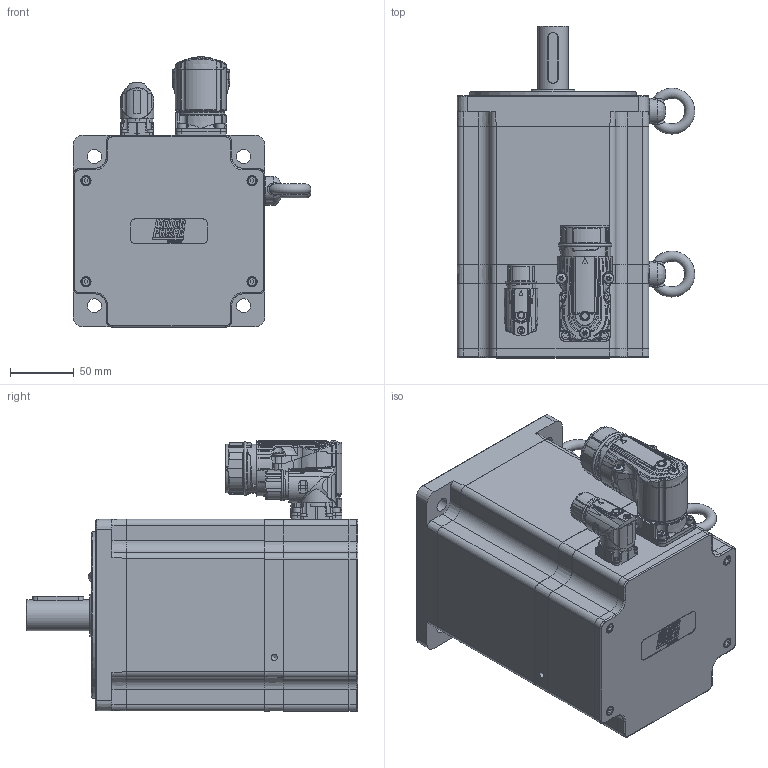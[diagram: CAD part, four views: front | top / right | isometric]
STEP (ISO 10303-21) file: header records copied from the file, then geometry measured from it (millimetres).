
FILE_DESCRIPTION(/* description */ ('Unknown'),/* implementation_level */ '2;1');
FILE_NAME(/* name */ 'TC4-150.6A.xx.x.3.A1.0.x.G3.00.00 Q0B754',/* time_stamp */ '2026-03-06T14:28:06+01:00',/* author */ ('Unknown'),/* organization */ ('Unknown'),/* preprocessor_version */ 'ST-DEVELOPER v19.4',/* originating_system */ 'Solid Edge',/* authorisation */ 'Unknown');
FILE_SCHEMA (('AUTOMOTIVE_DESIGN {1 0 10303 214 3 1 1}'));
Products named in the file (16): Q0B754 6A M1 VUOTO; 003155002229; 005113000600; 003003200239; 005321000040; 005911000252; 003103040237; 007117000452; 005911000223; Coperchio campana TC4-150; 007117000454; Dispersore TC4 150 6A single cable; 005119002043; 005911000205; 005911000185; 003251040619
Assembly tree (28 placements, depth 2):
  Q0B754 6A M1 VUOTO
    003155002229
    005113000600
    003003200239
    005321000040  x2
    005911000252  x4
    003103040237
    007117000452
    005911000223  x4
    Coperchio campana TC4-150
    007117000454
    Dispersore TC4 150 6A single cable
    005119002043
    005911000205  x4
    005911000185  x4
    003251040619
Bounding box: 186.01 x 259.64 x 211.45 mm (x, y, z)
Volume: 1893371.4 mm3; surface area: 494527.9 mm2
Topology: 29 solids, 30 shells, 3334 faces, 8219 edges, 5095 vertices
Faces by surface type: plane 1219, bspline 690, cylinder 688, cone 319, torus 298, sphere 120
Full cylindrical faces by diameter (mm): 0.5 x1, 1 x17, 1.2 x17, 2 x4, 2.013 x4, 2.459 x2, 2.5 x4, 3 x5, 3.2 x1, 3.242 x12, 3.6 x5, 4 x11, 4.134 x20, 4.5 x9, 4.7 x4, 4.917 x6, 5 x6, 5.4 x1, 5.5 x9, 5.9 x1, 6 x3, 6.647 x2, 7 x8, 8 x11, 8.4 x1, 8.5 x4, 9 x4, 10 x5, 11 x4, 15.2 x1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
Entity records: 151217 total; most frequent: CARTESIAN_POINT 63441, ORIENTED_EDGE 14216, DIRECTION 11883, EDGE_CURVE 7108, VERTEX_POINT 4686, AXIS2_PLACEMENT_3D 4650, FACE_BOUND 3950, EDGE_LOOP 3927
